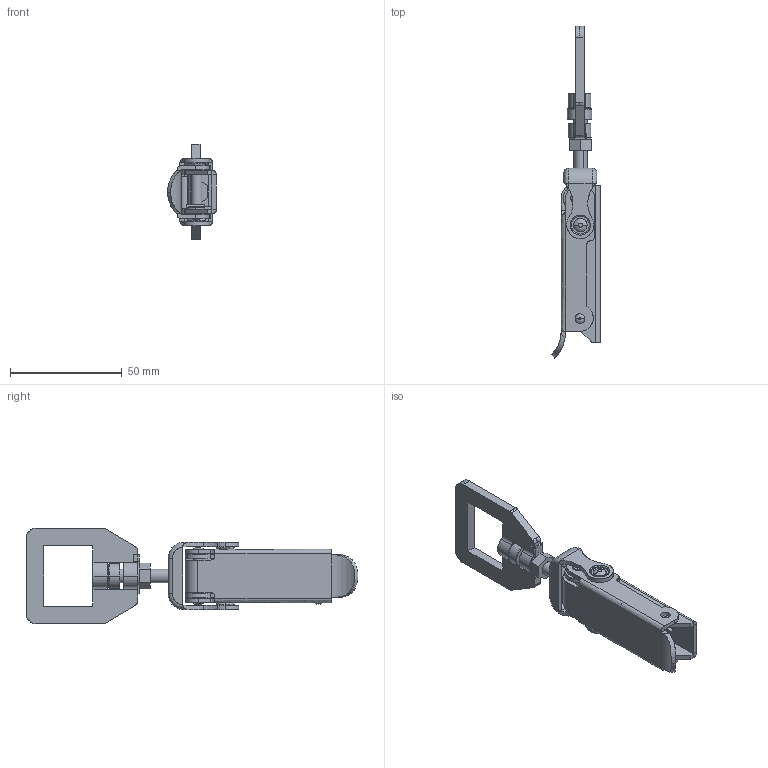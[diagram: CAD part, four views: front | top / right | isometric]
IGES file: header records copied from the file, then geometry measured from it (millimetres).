
Start section: SolidWorks IGES file using analytic representation for surfaces
Global section: file name: C:\Users\cbrechard\Desktop\GR 57 F.IGS; native system: SolidWorks 2017; preprocessor: SolidWorks 2017; author: cbrechard; date: 250403.090902; units: millimetre
Bounding box: 21.9 x 148.71 x 43 mm (x, y, z)
Surface area: 23363.7 mm2 (no closed solid volume)
Topology: 0 solids, 0 shells, 380 faces, 5048 edges, 5017 vertices
Faces by surface type: revolution 198, bspline 182
